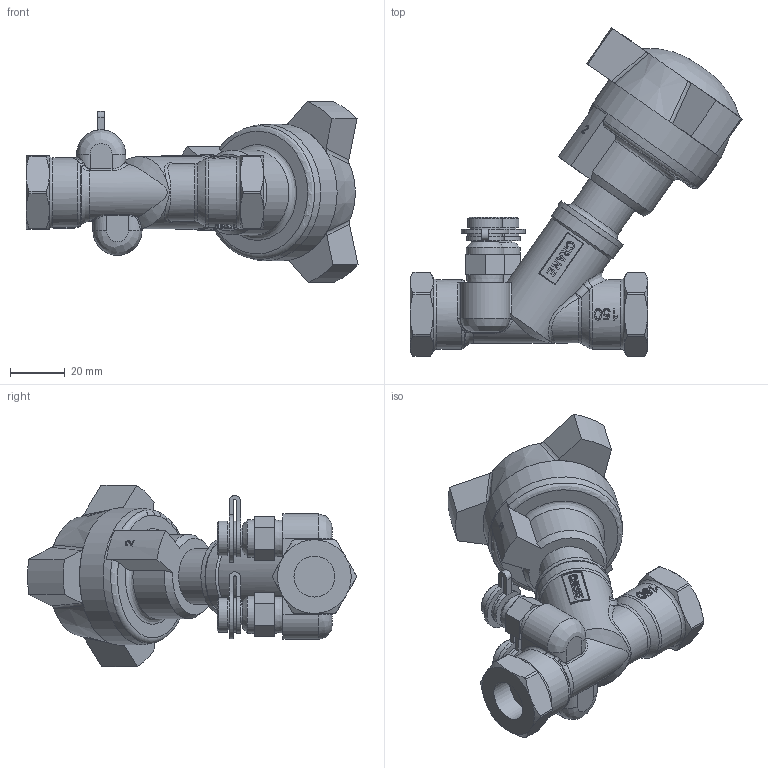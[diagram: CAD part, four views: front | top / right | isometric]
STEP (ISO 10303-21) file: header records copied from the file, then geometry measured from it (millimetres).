
FILE_DESCRIPTION((''),'2;1');
FILE_NAME('P:\Fastrack\53972_CRANE 3D\Workspace\CRANE\D931_1-2in\D931_1-2in.stp','2011-03-04T10:35:35',('btaylor'),(''),'Autodesk Inventor 2008','Autodesk Inventor 2008','');
FILE_SCHEMA(('AUTOMOTIVE_DESIGN { 1 0 10303 214 1 1 1 1 }'));
Length unit declared in the file: millimetre
Products named in the file (1): D931_1-2in
Bounding box: 121.59 x 120.36 x 66.44 mm (x, y, z)
Volume: 162188.9 mm3; surface area: 28924.7 mm2
Topology: 1 solids, 1 shells, 773 faces, 2065 edges, 1358 vertices
Faces by surface type: plane 333, bspline 326, cylinder 84, cone 27, torus 3
Full cylindrical faces by diameter (mm): 7.4 x2, 11 x2, 12.7 x2, 13.7 x2, 20.3 x1, 25.4 x2, 26.4 x1, 27.5 x1, 28 x1, 50 x1
Entity records: 67944 total; most frequent: CARTESIAN_POINT 50317, ORIENTED_EDGE 4030, DIRECTION 2420, EDGE_CURVE 2015, VERTEX_POINT 1341, VECTOR 988, LINE 988, EDGE_LOOP 874
